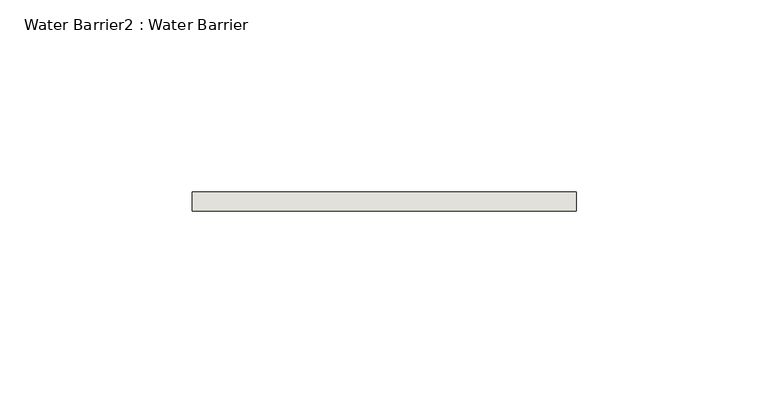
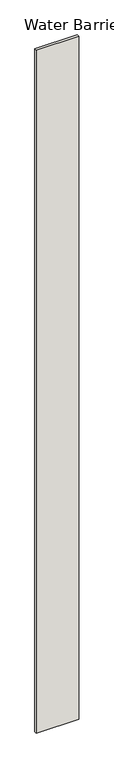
"""IFC4 building model written with IfcOpenShell, lengths in millimetres: wall geometry, Water Barrier2 : Water Barrier."""

from ifc_helpers import new_model, si_unit, origin, origin_with_axes, place, context, project, spatial, polyline, outline, extrude, source, transform, mapped, element, save


def water_barrier2_water_barrier_c5c10f20(model_context):
    return source(origin(), model_context, "Body", "SweptSolid", [
        extrude(outline(polyline([(20759.7747715, 14972.3863455), (20659.7747715, 14972.3863455), (20659.7747715, 14977.3863455), (20759.7747715, 14977.3863455), (20759.7747715, 14972.3863455)])), origin_with_axes(), (0.0, 0.0, 1.0), 1700.0),
    ])


if __name__ == "__main__":
    model = new_model("IFC4")
    model_context = context("Model", 3, world=origin())
    ifc_project = project(units=[si_unit("LENGTHUNIT", "METRE", prefix="MILLI")], contexts=[model_context])
    site = spatial("IfcSite", under=ifc_project)
    building = spatial("IfcBuilding", under=site)
    placement = place(None, origin())
    water_barrier2_water_barrier_shape = water_barrier2_water_barrier_c5c10f20(model_context)
    element("IfcWall", 1, ObjectType="Water Barrier2 : Water Barrier", at=placement, inside=building, context=model_context, shape_type="MappedRepresentation", body=[
        mapped(water_barrier2_water_barrier_shape, transform((0.0, 0.0, 0.0), x_axis=(1.0, 0.0, 0.0), y_axis=(0.0, 1.0, 0.0), z_axis=(0.0, 0.0, 1.0))),
    ])
    save(model, "model.ifc")
